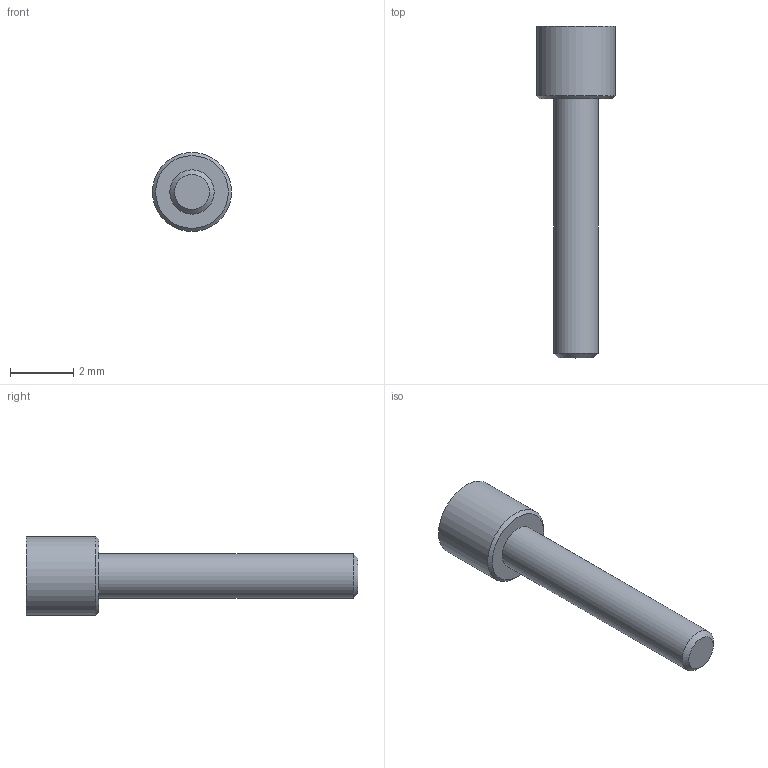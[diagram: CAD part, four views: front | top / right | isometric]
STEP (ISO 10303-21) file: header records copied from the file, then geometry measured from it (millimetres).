
FILE_DESCRIPTION (( 'STEP AP214' ), '1' );
FILE_NAME ('SE-4.STEP', '2018-10-09T18:06:54', ( '' ), ( '' ), 'SwSTEP 2.0', 'SolidWorks 2017', '' );
FILE_SCHEMA (( 'AUTOMOTIVE_DESIGN' ));
Length unit declared in the file: millimetre
Products named in the file (1): SE-4
Bounding box: 2.5 x 10.5 x 2.5 mm (x, y, z)
Volume: 23.7 mm3; surface area: 64.2 mm2
Topology: 1 solids, 1 shells, 20 faces, 48 edges, 32 vertices
Faces by surface type: plane 11, cylinder 7, cone 2
Full cylindrical faces by diameter (mm): 1.4 x1, 2.5 x1
Entity records: 574 total; most frequent: CARTESIAN_POINT 123, ORIENTED_EDGE 84, DIRECTION 80, EDGE_CURVE 42, VERTEX_POINT 30, AXIS2_PLACEMENT_3D 27, EDGE_LOOP 26, VECTOR 26
